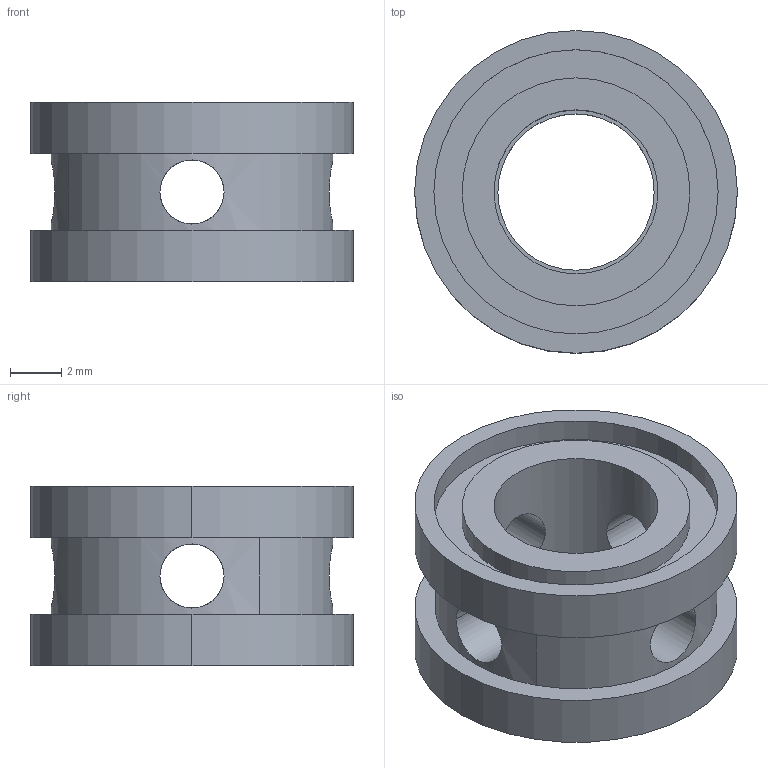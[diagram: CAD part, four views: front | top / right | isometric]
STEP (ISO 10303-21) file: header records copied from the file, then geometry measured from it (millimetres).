
FILE_DESCRIPTION(('CATIA V5 STEP Exchange'),'2;1');
FILE_NAME('C:\Users\Administrator\Desktop\LS42.14_V1 支撑圈A.stp','2020-04-01T10:25:03+00:00',('none'),('none'),'CATIA Version 5 Release 21 GA (IN-10)','CATIA V5 STEP AP214','none');
FILE_SCHEMA(('AUTOMOTIVE_DESIGN { 1 0 10303 214 1 1 1 1 }'));
Length unit declared in the file: millimetre
Products named in the file (1): Copy (1) of 支撑圈A
Bounding box: 12.6 x 12.6 x 7 mm (x, y, z)
Volume: 446.2 mm3; surface area: 784.4 mm2
Topology: 1 solids, 1 shells, 35 faces, 88 edges, 60 vertices
Faces by surface type: cylinder 26, plane 9
Entity records: 1092 total; most frequent: CARTESIAN_POINT 312, ORIENTED_EDGE 176, DIRECTION 102, EDGE_CURVE 88, VERTEX_POINT 60, AXIS2_PLACEMENT_3D 56, EDGE_LOOP 50, CIRCLE 36
